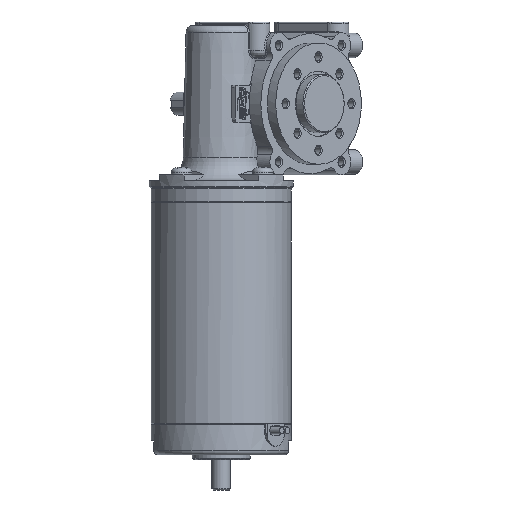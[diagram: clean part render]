
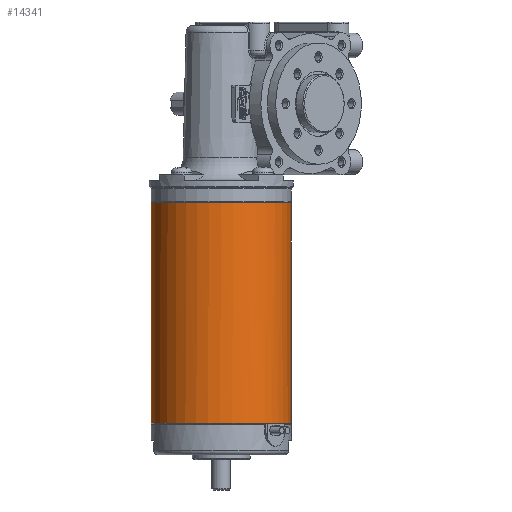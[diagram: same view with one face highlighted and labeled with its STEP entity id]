
A CAD part, front view. The second image highlights one B-rep face of the part: STEP entity #14341.
In plain terms, the highlighted cylindrical face has radius 30 mm (diameter 60 mm), a full revolution.
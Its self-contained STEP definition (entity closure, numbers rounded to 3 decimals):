
#361=CYLINDRICAL_SURFACE('',#15347,30.);
#1206=FACE_OUTER_BOUND('',#2051,.T.);
#2051=EDGE_LOOP('',(#9767,#9768,#9769,#9770,#9771,#9772));
#2979=LINE('',#22272,#3977);
#3977=VECTOR('',#17416,30.);
#4994=CIRCLE('',#15344,30.);
#4996=CIRCLE('',#15348,30.);
#4997=CIRCLE('',#15349,30.);
#4998=CIRCLE('',#15350,30.);
#5963=VERTEX_POINT('',#22260);
#5965=VERTEX_POINT('',#22266);
#5966=VERTEX_POINT('',#22267);
#5967=VERTEX_POINT('',#22269);
#7431=EDGE_CURVE('',#5963,#5963,#4994,.T.);
#7433=EDGE_CURVE('',#5965,#5966,#4996,.T.);
#7434=EDGE_CURVE('',#5967,#5965,#4997,.T.);
#7435=EDGE_CURVE('',#5966,#5967,#4998,.T.);
#7436=EDGE_CURVE('',#5966,#5963,#2979,.T.);
#9767=ORIENTED_EDGE('',*,*,#7433,.F.);
#9768=ORIENTED_EDGE('',*,*,#7434,.F.);
#9769=ORIENTED_EDGE('',*,*,#7435,.F.);
#9770=ORIENTED_EDGE('',*,*,#7436,.T.);
#9771=ORIENTED_EDGE('',*,*,#7431,.F.);
#9772=ORIENTED_EDGE('',*,*,#7436,.F.);
#14341=ADVANCED_FACE('',(#1206),#361,.T.);
#15344=AXIS2_PLACEMENT_3D('',#22261,#17402,#17403);
#15347=AXIS2_PLACEMENT_3D('',#22265,#17408,#17409);
#15348=AXIS2_PLACEMENT_3D('',#22268,#17410,#17411);
#15349=AXIS2_PLACEMENT_3D('',#22270,#17412,#17413);
#15350=AXIS2_PLACEMENT_3D('',#22271,#17414,#17415);
#17402=DIRECTION('center_axis',(0.,0.,1.));
#17403=DIRECTION('ref_axis',(1.,0.,0.));
#17408=DIRECTION('center_axis',(0.,0.,-1.));
#17409=DIRECTION('ref_axis',(1.,0.,0.));
#17410=DIRECTION('center_axis',(0.,0.,-1.));
#17411=DIRECTION('ref_axis',(1.,0.,0.));
#17412=DIRECTION('center_axis',(0.,0.,-1.));
#17413=DIRECTION('ref_axis',(1.,0.,0.));
#17414=DIRECTION('center_axis',(0.,0.,-1.));
#17415=DIRECTION('ref_axis',(1.,0.,0.));
#17416=DIRECTION('',(0.,0.,1.));
#22260=CARTESIAN_POINT('',(-30.,0.,-8.));
#22261=CARTESIAN_POINT('Origin',(0.,0.,-8.));
#22265=CARTESIAN_POINT('Origin',(0.,0.,-8.));
#22266=CARTESIAN_POINT('',(18.66,-23.49,-102.5));
#22267=CARTESIAN_POINT('',(-30.,0.,-102.5));
#22268=CARTESIAN_POINT('Origin',(0.,0.,-102.5));
#22269=CARTESIAN_POINT('',(26.386,-14.274,-102.5));
#22270=CARTESIAN_POINT('Origin',(0.,0.,-102.5));
#22271=CARTESIAN_POINT('Origin',(0.,0.,-102.5));
#22272=CARTESIAN_POINT('',(-30.,0.,-8.));
